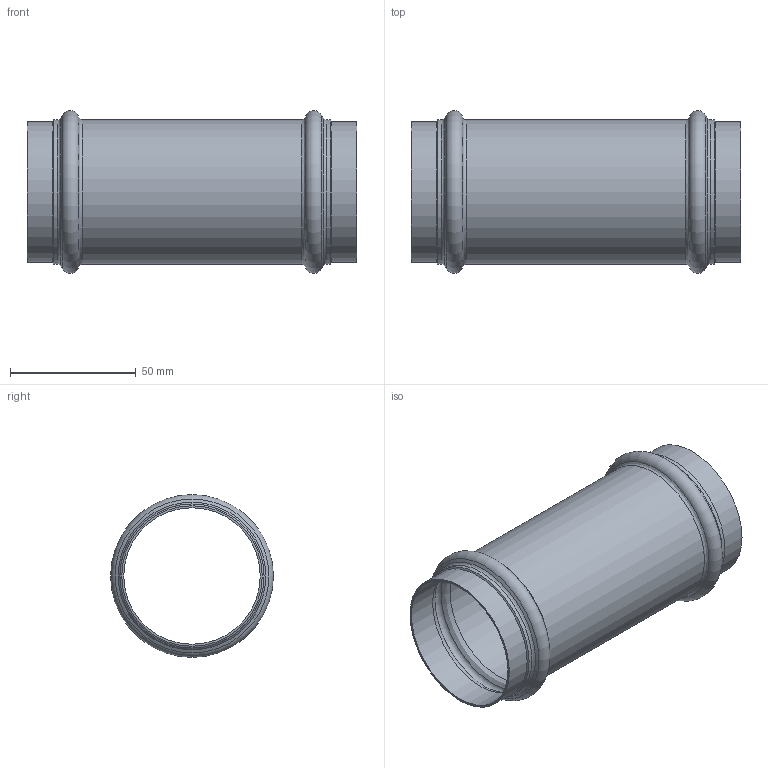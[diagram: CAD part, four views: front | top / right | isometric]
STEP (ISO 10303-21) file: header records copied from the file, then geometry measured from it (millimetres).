
FILE_DESCRIPTION((''),'2;1');
FILE_NAME('G:\Technics\CAD\Bauteile\054\69270S54(1).stp','2008-03-07T09:57:05',('herberg'),(''),'Autodesk Inventor 2008','Autodesk Inventor 2008','');
FILE_SCHEMA(('AUTOMOTIVE_DESIGN { 1 0 10303 214 1 1 1 1 }'));
Length unit declared in the file: millimetre
Products named in the file (1): 69270S54(1)
Bounding box: 131 x 64.79 x 64.79 mm (x, y, z)
Volume: 34176.5 mm3; surface area: 49283 mm2
Topology: 1 solids, 1 shells, 28 faces, 54 edges, 28 vertices
Faces by surface type: bspline 8, cylinder 8, cone 6, torus 4, plane 2
Full cylindrical faces by diameter (mm): 54.35 x3, 55.95 x2, 57.35 x3
Entity records: 914 total; most frequent: CARTESIAN_POINT 437, DIRECTION 98, ORIENTED_EDGE 56, EDGE_LOOP 56, AXIS2_PLACEMENT_3D 49, VERTEX_POINT 28, CIRCLE 28, EDGE_CURVE 28
